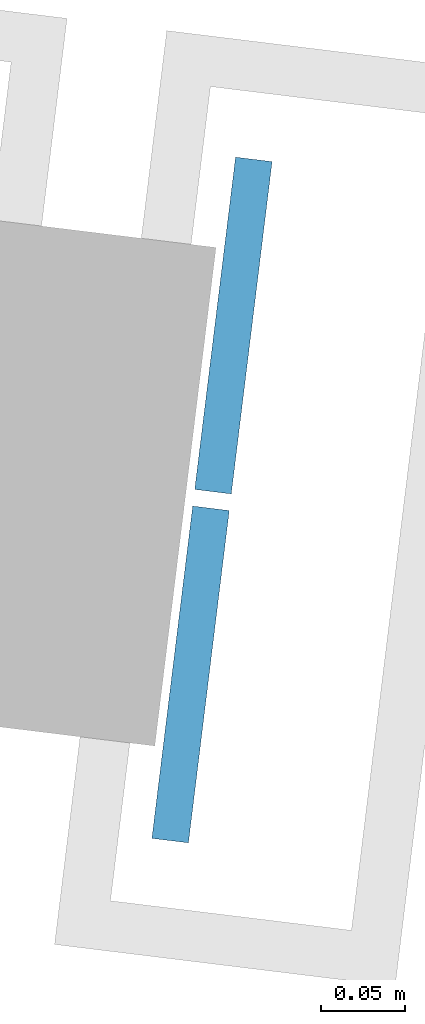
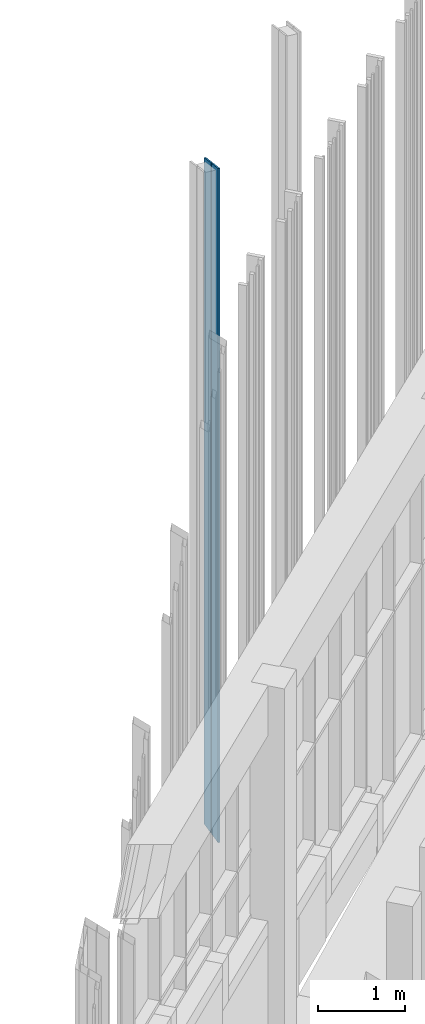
# One storey, part 35 of 390: 2 discrete accessories.
"""IFC2X3 building model written with IfcOpenShell, lengths in millimetres."""

from ifc_helpers import new_model, entity, si_unit, converted_unit, derived_unit, money_unit, direction, frame, origin_with_axes, place, context, subcontext, project, spatial, faceted_brep, source, transform, mapped, material, type_object, element, save


model = new_model("IFC2X3")

# Units and contexts
model_context = context("Model", 3, precision=1e-05, world=origin_with_axes(), true_north=direction((0.0, 1.0)))
body_context = subcontext(model_context, "Body", "Model", "MODEL_VIEW")
ifc_project = project(units=[si_unit("LENGTHUNIT", "METRE", prefix="MILLI"), si_unit("AREAUNIT", "SQUARE_METRE"), si_unit("VOLUMEUNIT", "CUBIC_METRE"), converted_unit("PLANEANGLEUNIT", "DEGREE", entity("IfcPlaneAngleMeasure", 0.0174532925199), si_unit("PLANEANGLEUNIT", "RADIAN"), dimensions=[0, 0, 0, 0, 0, 0, 0]), si_unit("SOLIDANGLEUNIT", "STERADIAN"), money_unit("EUR"), converted_unit("TIMEUNIT", "Year", entity("IfcTimeMeasure", 31556926.0), si_unit("TIMEUNIT", "SECOND"), dimensions=[0, 0, 1, 0, 0, 0, 0]), si_unit("MASSUNIT", "GRAM", prefix="KILO"), si_unit("THERMODYNAMICTEMPERATUREUNIT", "DEGREE_CELSIUS"), si_unit("LUMINOUSINTENSITYUNIT", "LUMEN"), si_unit("ENERGYUNIT", "JOULE", prefix="MEGA"), derived_unit("THERMALCONDUCTANCEUNIT", [(si_unit("POWERUNIT", "WATT"), 1), (si_unit("LENGTHUNIT", "METRE"), -1), (si_unit("THERMODYNAMICTEMPERATUREUNIT", "KELVIN"), -1)]), derived_unit("SPECIFICHEATCAPACITYUNIT", [(si_unit("ENERGYUNIT", "JOULE"), 1), (si_unit("MASSUNIT", "GRAM", prefix="KILO"), -1), (si_unit("THERMODYNAMICTEMPERATUREUNIT", "KELVIN"), -1)]), derived_unit("MASSDENSITYUNIT", [(si_unit("MASSUNIT", "GRAM", prefix="KILO"), 1), (si_unit("VOLUMEUNIT", "CUBIC_METRE"), -1)])], contexts=[model_context])

# Site, building, storey
site_placement = place(None, origin_with_axes())
site = spatial("IfcSite", under=ifc_project, at=site_placement, Name="Site", CompositionType="ELEMENT")
building_placement = place(site_placement, origin_with_axes())
building = spatial("IfcBuilding", under=site, at=building_placement, Name="Building", CompositionType="ELEMENT")
storey_placement = place(building_placement, origin_with_axes())
storey = spatial("IfcBuildingStorey", under=building, at=storey_placement, Name="1 korrus", CompositionType="ELEMENT", Elevation=0.0)

# Discrete accessories
ifc_material = material(Name="GENEERILINE - VÄLINE VOODER")
discrete_accessory_type = type_object("IfcDiscreteAccessoryType", Name="GENEERILINE - VÄLINE VOODER")
shared_shape_1 = source(origin_with_axes(), body_context, "Body", "Brep", [
    faceted_brep([(-162194.117401, 119664.914694, 100.0), (-162194.117401, 119664.914694, 9543.73066959), (-162215.953417, 119662.233568, 9543.73066959), (-162215.953417, 119662.233568, 100.0), (-162218.49127, 119863.423924, 100.0), (-162218.49127, 119863.423924, 9490.1408311), (-162240.327285, 119860.742798, 9490.1408311), (-162240.327285, 119860.742798, 100.0)], [[[0, 1, 2, 3]], [[0, 4, 5, 1]], [[1, 5, 6, 2]], [[2, 6, 7, 3]], [[3, 7, 4, 0]], [[4, 7, 6, 5]]]),
])
discrete_accessory_1_placement = place(storey_placement, frame((256434.905033, -72308.1055507, 0.0), z_axis=(0.0, 0.0, 1.0), x_axis=(0.970295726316, -0.241921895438, 0.0)))
element("IfcDiscreteAccessory", 1, at=discrete_accessory_1_placement, inside=storey, type_object=discrete_accessory_type, material=ifc_material, Name="Päikesevarjestuspost", context=body_context, shape_type="MappedRepresentation", body=[
    mapped(shared_shape_1, transform((0.0, 0.0, 0.0))),
])
shared_shape_2 = source(origin_with_axes(), body_context, "Body", "Brep", [
    faceted_brep([(-162190.360855, 119453.798876, 100.0), (-162168.524839, 119456.480002, 100.0), (-162168.524839, 119456.480002, 9600.0), (-162190.360855, 119453.798876, 9600.0), (-162214.734723, 119652.308107, 100.0), (-162192.898708, 119654.989232, 100.0), (-162192.898708, 119654.989232, 9546.41016151), (-162214.734723, 119652.308107, 9546.41016151)], [[[0, 1, 2, 3]], [[0, 4, 5, 1]], [[1, 5, 6, 2]], [[2, 6, 7, 3]], [[3, 7, 4, 0]], [[5, 4, 7, 6]]]),
])
discrete_accessory_2_placement = place(storey_placement, frame((256434.905033, -72308.1055507, 0.0), z_axis=(0.0, 0.0, 1.0), x_axis=(0.970295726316, -0.241921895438, 0.0)))
element("IfcDiscreteAccessory", 2, at=discrete_accessory_2_placement, inside=storey, type_object=discrete_accessory_type, material=ifc_material, Name="Päikesevarjestuspost", context=body_context, shape_type="MappedRepresentation", body=[
    mapped(shared_shape_2, transform((0.0, 0.0, 0.0))),
])

save(model, "model.ifc")
